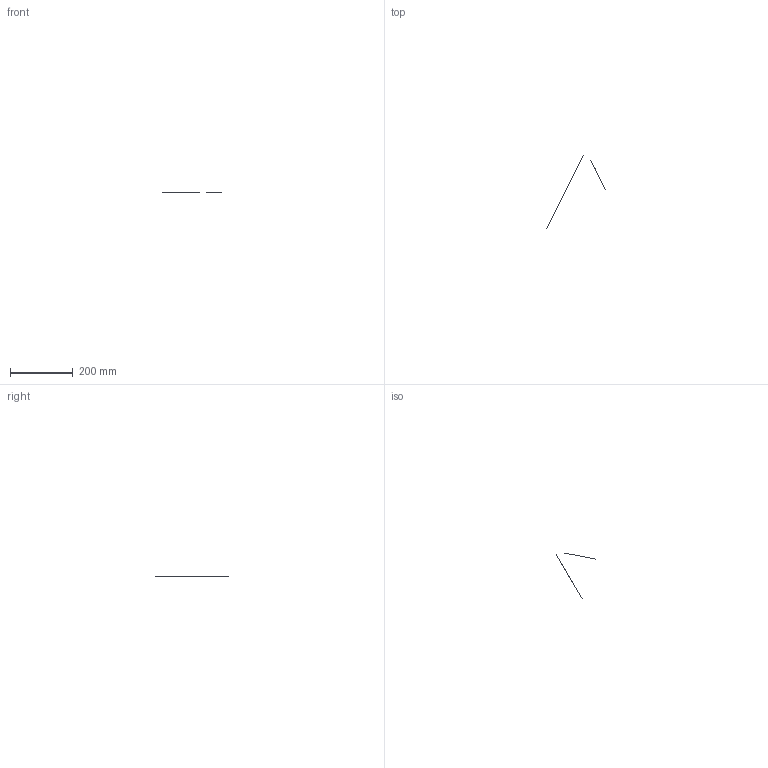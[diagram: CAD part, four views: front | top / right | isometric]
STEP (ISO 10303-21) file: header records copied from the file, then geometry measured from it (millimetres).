
FILE_DESCRIPTION(('BRL-CAD AP203 near-degenerate NURBS pole fixture'),'2;1');
FILE_NAME('ap203_near_degenerate_nurbs_pole.stp','2026-07-22T00:00:00',('BRL-CAD'),('BRL-CAD'),'','','');
FILE_SCHEMA(('CONFIG_CONTROL_DESIGN'));
Length unit declared in the file: millimetre
Products named in the file (1): near_degenerate_nurbs_pole
Bounding box: 187.5 x 234.38 x 0 mm (x, y, z)
Surface area: 499701.3 mm2 (no closed solid volume)
Topology: 0 solids, 1 shells, 1 faces, 4 edges, 3 vertices
Faces by surface type: bspline 1
Entity records: 48 total; most frequent: CARTESIAN_POINT 11, VERTEX_POINT 3, DIRECTION 3, VECTOR 3, LINE 3, EDGE_CURVE 3, ORIENTED_EDGE 3, EDGE_LOOP 1
